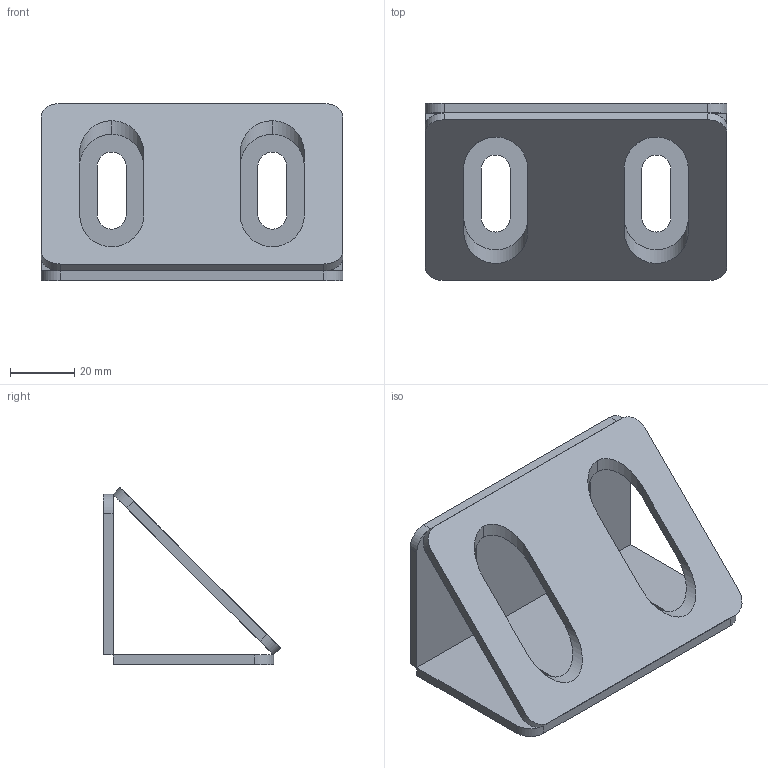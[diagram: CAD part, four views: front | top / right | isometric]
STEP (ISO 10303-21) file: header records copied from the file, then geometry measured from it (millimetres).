
FILE_DESCRIPTION (( 'STEP AP214' ), '1' );
FILE_NAME ('Ñáîðêà 8503.STEP', '2017-10-16T08:39:39', ( '' ), ( '' ), 'SwSTEP 2.0', 'SolidWorks 2014', '' );
FILE_SCHEMA (( 'AUTOMOTIVE_DESIGN' ));
Length unit declared in the file: millimetre
Products named in the file (6): 8503 - 1; 栖闉罻 8503; 8503 - 2
Assembly tree (3 placements, depth 2):
  8503 - 1
  8503 - 1
  栖闉罻 8503
    8503 - 1  x2
    8503 - 2
  8503 - 2
Bounding box: 94 x 55.12 x 55.12 mm (x, y, z)
Volume: 40000 mm3; surface area: 30844 mm2
Topology: 3 solids, 3 shells, 52 faces, 138 edges, 92 vertices
Faces by surface type: plane 30, cylinder 22
Entity records: 1291 total; most frequent: CARTESIAN_POINT 239, ORIENTED_EDGE 192, DIRECTION 190, EDGE_CURVE 96, LINE 64, VECTOR 64, VERTEX_POINT 64, AXIS2_PLACEMENT_3D 63
